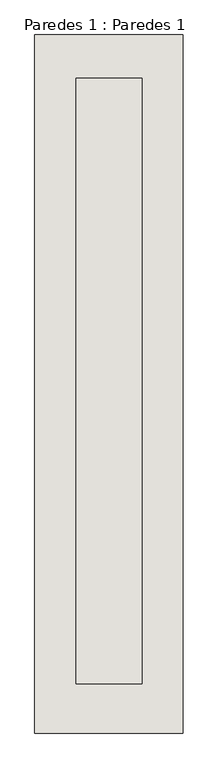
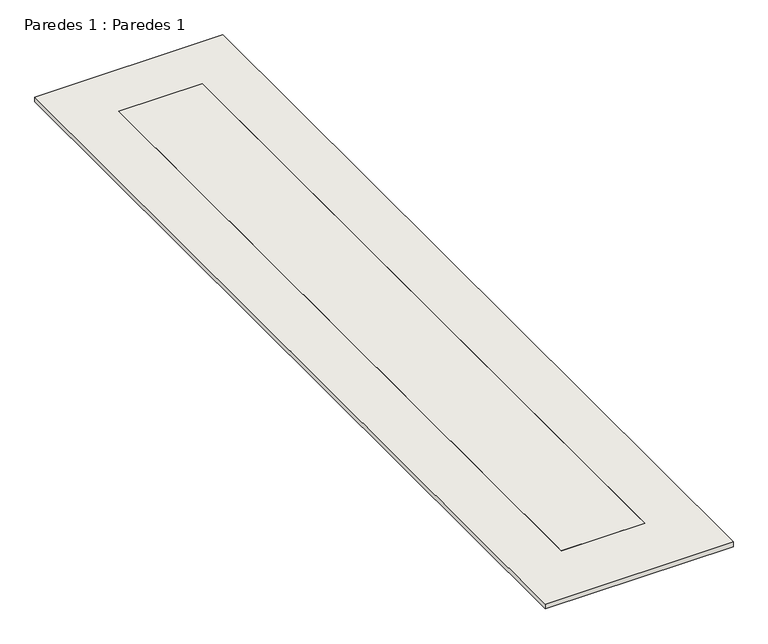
"""IFC4 building model written with IfcOpenShell, lengths in millimetres: wall geometry, Paredes 1 : Paredes 1."""

import ifcopenshell
import ifcopenshell.guid

model = None  # the IFC model being written
_history = None  # IfcOwnerHistory: only IFC2X3 demands one
_inside = {}  # id of a spatial element -> (the spatial element, [elements in it])
_under = {}  # id of a project, library or spatial element -> (it, [spatial elements below it])
_declared = {}  # id of a project -> (the project, [libraries it declares])
_typed = {}  # id of a type object -> (the type object, [elements of that type])
_made_of = {}  # id of a material, layer set ... -> (it, [elements and type objects made of it])


def new_model(schema):
    """Start an empty IFC model of exactly this schema.

    Asked for "IFC4X3", IfcOpenShell would pick the latest addendum, in which some entities
    have other attributes; the version numbers below select the first issue.
    IFC2X3 requires an IfcOwnerHistory on every rooted entity: one is made here for all.
    """
    global model, _history
    if schema == "IFC4X3":
        model = ifcopenshell.file(schema_version=(4, 3, 0, 0))
    else:
        model = ifcopenshell.file(schema=schema)
    _inside.clear()
    _under.clear()
    _declared.clear()
    _typed.clear()
    _made_of.clear()
    _history = None
    if model.schema == "IFC2X3":
        org = make("IfcOrganization", Name="unknown")
        user = make(
            "IfcPersonAndOrganization",
            ThePerson=make("IfcPerson", FamilyName="unknown"),
            TheOrganization=org,
        )
        app = make(
            "IfcApplication",
            ApplicationDeveloper=org,
            Version="unknown",
            ApplicationFullName="unknown",
            ApplicationIdentifier="unknown",
        )
        _history = make(
            "IfcOwnerHistory",
            OwningUser=user,
            OwningApplication=app,
            ChangeAction="ADDED",
            CreationDate=0,
        )
    return model


def make(cls, **values):
    """One entity of the class cls with the attributes given. An attribute that is None is left unset."""
    return model.create_entity(
        cls, **{name: value for name, value in values.items() if value is not None}
    )


def rooted(cls, **values):
    """An entity with a GlobalId (a new one), such as an element, a storey or a relation."""
    return make(cls, GlobalId=ifcopenshell.guid.new(), OwnerHistory=_history, **values)


def si_unit(unit_type, name, prefix=None):
    """IfcSIUnit, for example si_unit("LENGTHUNIT", "METRE", prefix="MILLI")."""
    return make("IfcSIUnit", UnitType=unit_type, Prefix=prefix, Name=name)


def assignment(units):
    """IfcUnitAssignment: the units of a project."""
    return None if units is None else make("IfcUnitAssignment", Units=units)


def point(xyz):
    """IfcCartesianPoint."""
    return None if xyz is None else make("IfcCartesianPoint", Coordinates=xyz)


def direction(xyz):
    """IfcDirection."""
    return None if xyz is None else make("IfcDirection", DirectionRatios=xyz)


def frame(location, z_axis=None, x_axis=None):
    """IfcAxis2Placement3D, a coordinate frame: its origin and axes. An axis left out is left unset."""
    return make(
        "IfcAxis2Placement3D",
        Location=point(location),
        Axis=direction(z_axis),
        RefDirection=direction(x_axis),
    )


def origin():
    """The frame at (0, 0, 0) with its axes left unset."""
    return frame((0.0, 0.0, 0.0))


def place(relative_to, where):
    """IfcLocalPlacement: puts the frame where relative to a parent placement (None: the world)."""
    return make(
        "IfcLocalPlacement", PlacementRelTo=relative_to, RelativePlacement=where
    )


def context(
    kind, dimensions, precision=None, world=None, true_north=None, identifier=None
):
    """IfcGeometricRepresentationContext, for example the 3D "Model" context."""
    return make(
        "IfcGeometricRepresentationContext",
        ContextIdentifier=identifier,
        ContextType=kind,
        CoordinateSpaceDimension=dimensions,
        Precision=precision,
        WorldCoordinateSystem=world,
        TrueNorth=true_north,
    )


def project(units=None, contexts=None):
    """IfcProject with its units and contexts."""
    return rooted(
        "IfcProject",
        Name="project",
        RepresentationContexts=contexts,
        UnitsInContext=assignment(units),
    )


def spatial(cls, under=None, at=None, **own):
    """A site, building, storey or space (cls), placed at a placement, below another one or the project."""
    s = rooted(cls, ObjectPlacement=at, **own)
    if under is not None:
        _under.setdefault(under.id(), (under, []))[1].append(s)
    return s


def polyline(points):
    """IfcPolyline through the points."""
    return make("IfcPolyline", Points=[point(p) for p in points])


def outline(outer, holes=None, kind="AREA"):
    """IfcArbitraryClosedProfileDef: a profile drawn as a closed curve; with holes, ...WithVoids."""
    if holes is None:
        return make("IfcArbitraryClosedProfileDef", ProfileType=kind, OuterCurve=outer)
    return make(
        "IfcArbitraryProfileDefWithVoids",
        ProfileType=kind,
        OuterCurve=outer,
        InnerCurves=holes,
    )


def extrude(swept, where, along, depth):
    """IfcExtrudedAreaSolid: the profile swept, set in the frame where, extruded along a direction by depth."""
    return make(
        "IfcExtrudedAreaSolid",
        SweptArea=swept,
        Position=where,
        ExtrudedDirection=direction(along),
        Depth=depth,
    )


def shape(context_of_items, identifier, shape_type, items):
    """IfcShapeRepresentation: the items that make up one representation, for example the "Body"."""
    return make(
        "IfcShapeRepresentation",
        ContextOfItems=context_of_items,
        RepresentationIdentifier=identifier,
        RepresentationType=shape_type,
        Items=items,
    )


def source(mapping_origin, context_of_items, identifier, shape_type, items):
    """IfcRepresentationMap: a shape defined once, which mapped items show again and again."""
    return make(
        "IfcRepresentationMap",
        MappingOrigin=mapping_origin,
        MappedRepresentation=shape(context_of_items, identifier, shape_type, items),
    )


def transform(
    local_origin,
    x_axis=None,
    y_axis=None,
    z_axis=None,
    scale=None,
    scale2=None,
    scale3=None,
    uniform=True,
):
    """IfcCartesianTransformationOperator3D, or its non-uniform kind. x_axis, y_axis, z_axis: its Axis1, 2, 3."""
    if uniform:
        return make(
            "IfcCartesianTransformationOperator3D",
            Axis1=direction(x_axis),
            Axis2=direction(y_axis),
            LocalOrigin=point(local_origin),
            Scale=scale,
            Axis3=direction(z_axis),
        )
    return make(
        "IfcCartesianTransformationOperator3DnonUniform",
        Axis1=direction(x_axis),
        Axis2=direction(y_axis),
        LocalOrigin=point(local_origin),
        Scale=scale,
        Axis3=direction(z_axis),
        Scale2=scale2,
        Scale3=scale3,
    )


def mapped(mapping_source, mapping_target):
    """IfcMappedItem: shows the shape of a source again, moved by a transform."""
    return make(
        "IfcMappedItem", MappingSource=mapping_source, MappingTarget=mapping_target
    )


def made_of(thing, what):
    """Note that an element or type object is made of a material, layer set ...; save() writes the relation."""
    if what is not None:
        _made_of.setdefault(what.id(), (what, []))[1].append(thing)
    return thing


def element(
    cls,
    number,
    at=None,
    inside=None,
    cuts=None,
    type_object=None,
    material=None,
    context=None,
    identifier="Body",
    shape_type=None,
    held_by="IfcProductDefinitionShape",
    body=None,
    shapes=None,
    **own,
):
    """One element of the class cls, such as IfcWall. Its Tag is "e" and its number.

    at: its placement. inside: the storey or other place that contains it. cuts: it is an
    opening in that element (IfcRelVoidsElement). A single representation is given by context,
    identifier, shape_type and body (its items); several are given by shapes. held_by: the class
    of the entity that holds the representations. save() writes the other relations.
    """
    e = rooted(cls, Tag="e%d" % number, ObjectPlacement=at, **own)
    if body is not None:
        shapes = [shape(context, identifier, shape_type, body)]
    if shapes is not None:
        e.Representation = make(held_by, Representations=shapes)
    if inside is not None:
        _inside.setdefault(inside.id(), (inside, []))[1].append(e)
    if cuts is not None:
        rooted(
            "IfcRelVoidsElement", RelatingBuildingElement=cuts, RelatedOpeningElement=e
        )
    if type_object is not None:
        _typed.setdefault(type_object.id(), (type_object, []))[1].append(e)
    return made_of(e, material)


def aggregate(whole, parts):
    """IfcRelAggregates: a whole, such as a stair, and the parts it consists of."""
    return rooted("IfcRelAggregates", RelatingObject=whole, RelatedObjects=parts)


def save(model, path):
    """Write the relations noted so far, then the file.

    IfcRelAggregates (storeys below a building ...), IfcRelContainedInSpatialStructure (elements
    in a storey), IfcRelDefinesByType, IfcRelAssociatesMaterial and IfcRelDeclares: one each for
    every whole, place, type object, material and project.
    """
    for whole, parts in _under.values():
        aggregate(whole, parts)
    for where, things in _inside.values():
        rooted(
            "IfcRelContainedInSpatialStructure",
            RelatedElements=things,
            RelatingStructure=where,
        )
    for kind, things in _typed.values():
        rooted("IfcRelDefinesByType", RelatedObjects=things, RelatingType=kind)
    for what, things in _made_of.values():
        rooted("IfcRelAssociatesMaterial", RelatedObjects=things, RelatingMaterial=what)
    for by, libraries in _declared.values():
        rooted("IfcRelDeclares", RelatingContext=by, RelatedDefinitions=libraries)
    model.write(path)


def paredes_1_paredes_1_85ae5345(model_context):
    return source(origin(), model_context, "Body", "SweptSolid", [
        extrude(outline(polyline([(-5076.5118355, 4296.629058), (-4741.5118355, 4296.629058), (-4741.5118355, 1217.9798852), (-5076.5118355, 1217.9798852), (-5076.5118355, 4296.629058)])), frame((0.0, 0.0, 700.0), z_axis=(0.0, 0.0, 1.0), x_axis=(1.0, 0.0, 0.0)), (0.0, 0.0, 1.0), 20.0),
        extrude(outline(polyline([(-5286.5118355, 4516.629058), (-4531.5118355, 4516.629058), (-4531.5118355, 966.629058), (-5286.5118355, 966.629058), (-5286.5118355, 4516.629058)]), holes=[polyline([(-4741.5118355, 4296.629058), (-5076.5118355, 4296.629058), (-5076.5118355, 1217.9798852), (-4741.5118355, 1217.9798852), (-4741.5118355, 4296.629058)])]), frame((0.0, 0.0, 700.0), z_axis=(0.0, 0.0, 1.0), x_axis=(1.0, 0.0, 0.0)), (0.0, 0.0, 1.0), 20.0),
    ])


if __name__ == "__main__":
    model = new_model("IFC4")
    model_context = context("Model", 3, world=origin())
    ifc_project = project(units=[si_unit("LENGTHUNIT", "METRE", prefix="MILLI")], contexts=[model_context])
    site = spatial("IfcSite", under=ifc_project)
    building = spatial("IfcBuilding", under=site)
    placement = place(None, origin())
    paredes_1_paredes_1_shape = paredes_1_paredes_1_85ae5345(model_context)
    element("IfcWall", 1, ObjectType="Paredes 1 : Paredes 1", at=placement, inside=building, context=model_context, shape_type="MappedRepresentation", body=[
        mapped(paredes_1_paredes_1_shape, transform((0.0, 0.0, 0.0), x_axis=(1.0, 0.0, 0.0), y_axis=(0.0, 1.0, 0.0), z_axis=(0.0, 0.0, 1.0))),
    ])
    save(model, "model.ifc")
